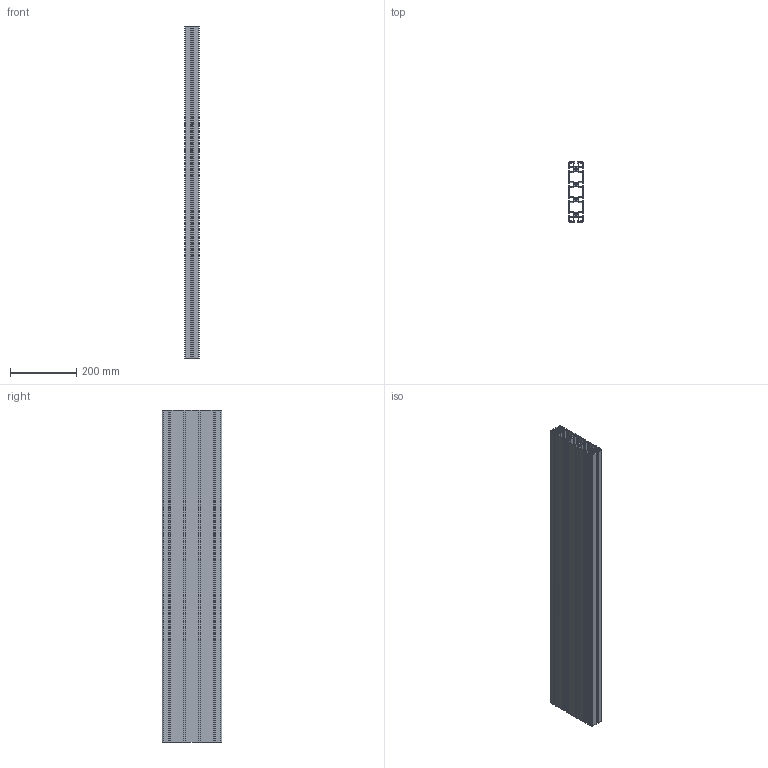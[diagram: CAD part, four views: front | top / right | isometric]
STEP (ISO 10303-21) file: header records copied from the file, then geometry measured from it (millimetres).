
FILE_DESCRIPTION (( 'STEP AP214' ), '1' );
FILE_NAME ('SA01006L.step', '2024-12-03T16:28:31', ( '' ), ( '' ), 'SwSTEP 2.0', 'SolidWorks 2023', '' );
FILE_SCHEMA (( 'AUTOMOTIVE_DESIGN' ));
Length unit declared in the file: millimetre
Products named in the file (1): SA01006L
Bounding box: 45 x 180 x 1000 mm (x, y, z)
Volume: 1604323.7 mm3; surface area: 1595537.8 mm2
Topology: 1 solids, 1 shells, 454 faces, 1356 edges, 904 vertices
Faces by surface type: plane 268, cylinder 186
Full cylindrical faces by diameter (mm): 7.45 x4
Entity records: 15359 total; most frequent: CARTESIAN_POINT 2711, ORIENTED_EDGE 2704, DIRECTION 2634, EDGE_CURVE 1352, LINE 980, VECTOR 980, VERTEX_POINT 904, AXIS2_PLACEMENT_3D 827
